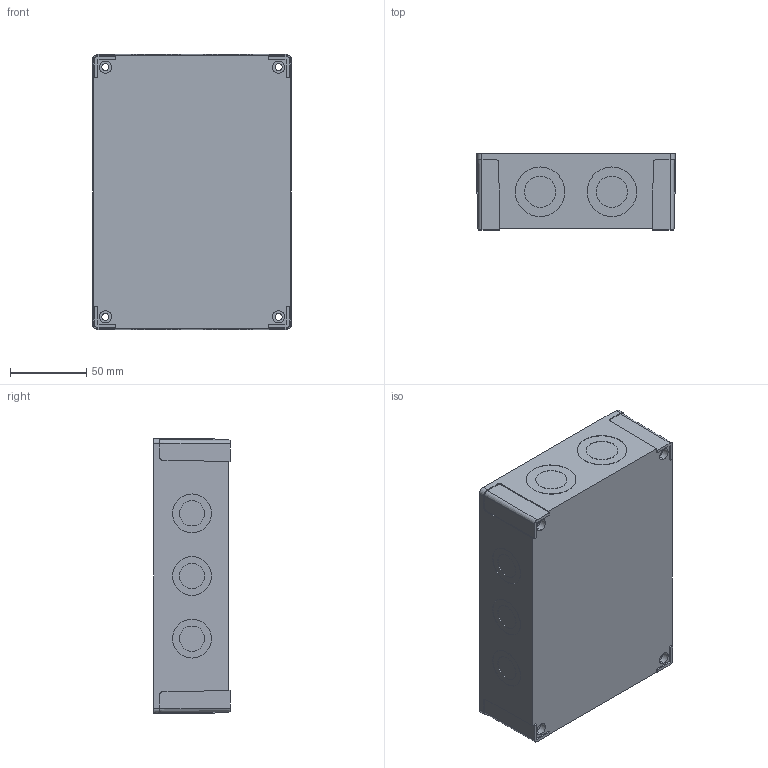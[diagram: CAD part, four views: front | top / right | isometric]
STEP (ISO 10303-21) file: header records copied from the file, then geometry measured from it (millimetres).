
FILE_DESCRIPTION (( 'STEP AP203' ), '1' );
FILE_NAME ('FIBOX_MNXPCM150B.STEP', '2005-06-30T06:37:05', ( ' ' ), ( ' ' ), 'SwSTEP 2.0', 'SolidWorks 2005143', '' );
FILE_SCHEMA (( 'CONFIG_CONTROL_DESIGN' ));
Length unit declared in the file: millimetre
Products named in the file (1): FIBOX_MNXPCM150B
Bounding box: 130.1 x 50 x 180.1 mm (x, y, z)
Volume: 202783.2 mm3; surface area: 111269.7 mm2
Topology: 1 solids, 1 shells, 350 faces, 837 edges, 558 vertices
Faces by surface type: plane 182, cylinder 148, cone 20
Entity records: 10406 total; most frequent: CARTESIAN_POINT 1890, DIRECTION 1835, ORIENTED_EDGE 1674, EDGE_CURVE 837, AXIS2_PLACEMENT_3D 679, VERTEX_POINT 558, VECTOR 477, LINE 477
